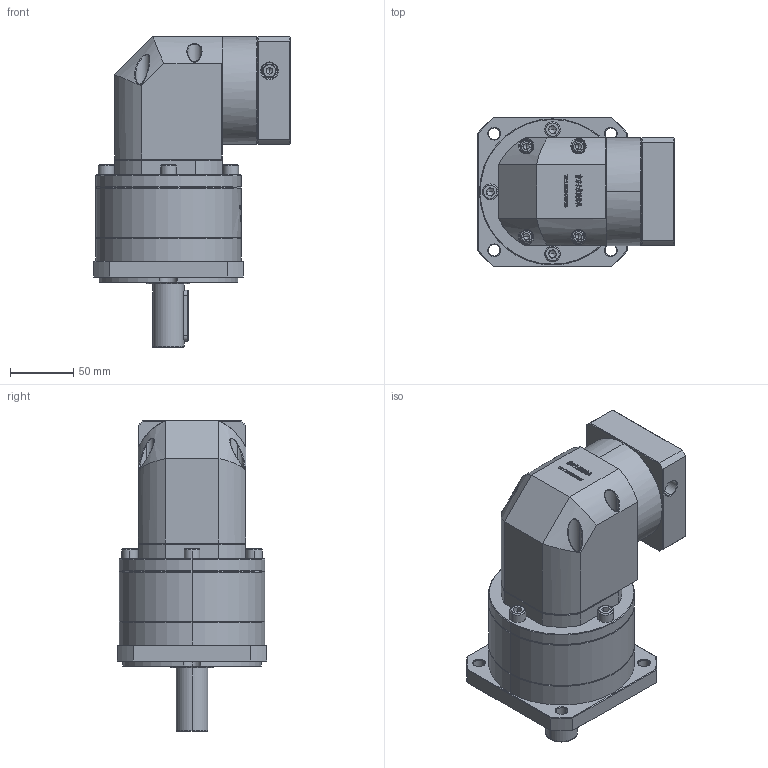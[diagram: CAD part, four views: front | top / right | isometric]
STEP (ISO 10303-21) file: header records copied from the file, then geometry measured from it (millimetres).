
FILE_DESCRIPTION (( 'STEP AP214' ), '1' );
FILE_NAME ('ZFR120A-D25-L2-19-80-100-M6.step', '2023-03-08T05:46:34', ( '' ), ( '' ), 'SwSTEP 2.0', 'SolidWorks 2016', '' );
FILE_SCHEMA (( 'AUTOMOTIVE_DESIGN' ));
Length unit declared in the file: millimetre
Products named in the file (1): ZFR120A-D25-L2-19-80-100-M6
Bounding box: 155.1 x 118 x 245 mm (x, y, z)
Volume: 1856946.1 mm3; surface area: 171133.7 mm2
Topology: 6 solids, 6 shells, 3004 faces, 7965 edges, 5109 vertices
Faces by surface type: plane 1576, bspline 625, cylinder 455, cone 334, torus 14
Entity records: 163604 total; most frequent: CARTESIAN_POINT 62026, ORIENTED_EDGE 15838, DIRECTION 11680, EDGE_CURVE 7919, VERTEX_POINT 5109, LINE 4924, VECTOR 4924, AXIS2_PLACEMENT_3D 3378
